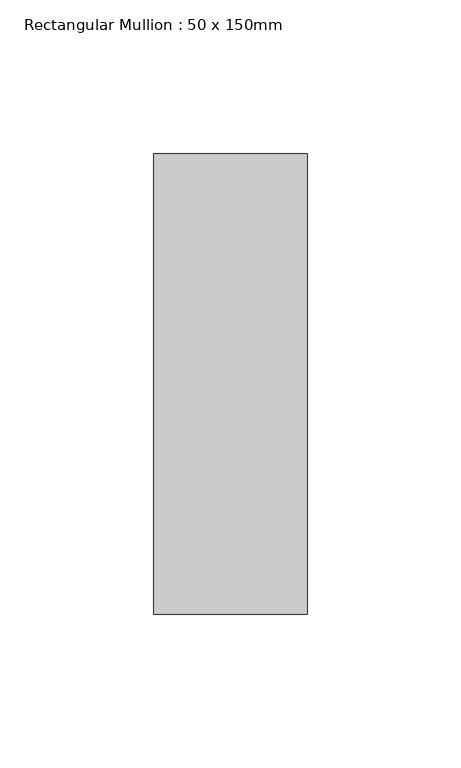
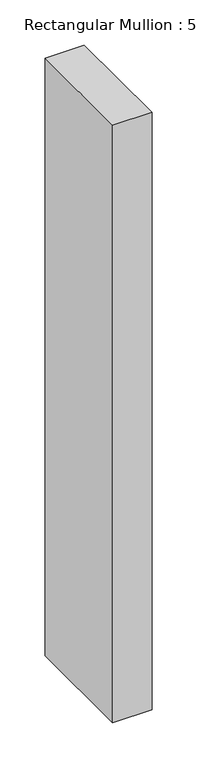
"""IFC4 building model written with IfcOpenShell, lengths in millimetres: member geometry, Rectangular Mullion : 50 x 150mm."""

from ifc_helpers import new_model, si_unit, frame, origin, place, context, project, spatial, polyline, outline, extrude, source, transform, mapped, element, save


def rectangular_mullion_50_x_150mm_4646c6ee(model_context):
    return source(origin(), model_context, "Body", "SweptSolid", [
        extrude(outline(polyline([(25.0, 75.0), (25.0, -75.0), (-25.0, -75.0), (-25.0, 75.0), (25.0, 75.0)])), frame((0.0, 0.0, -807.3949988), z_axis=(0.0, 0.0, 1.0), x_axis=(1.0, 0.0, 0.0)), (0.0, 0.0, 1.0), 807.3949988),
    ])


if __name__ == "__main__":
    model = new_model("IFC4")
    model_context = context("Model", 3, world=origin())
    ifc_project = project(units=[si_unit("LENGTHUNIT", "METRE", prefix="MILLI")], contexts=[model_context])
    site = spatial("IfcSite", under=ifc_project)
    building = spatial("IfcBuilding", under=site)
    placement = place(None, origin())
    rectangular_mullion_50_x_150mm_shape = rectangular_mullion_50_x_150mm_4646c6ee(model_context)
    element("IfcMember", 1, ObjectType="Rectangular Mullion : 50 x 150mm", at=placement, inside=building, context=model_context, shape_type="MappedRepresentation", body=[
        mapped(rectangular_mullion_50_x_150mm_shape, transform((0.0, 0.0, 0.0), x_axis=(1.0, 0.0, 0.0), y_axis=(0.0, 1.0, 0.0), z_axis=(0.0, 0.0, 1.0))),
    ])
    save(model, "model.ifc")
